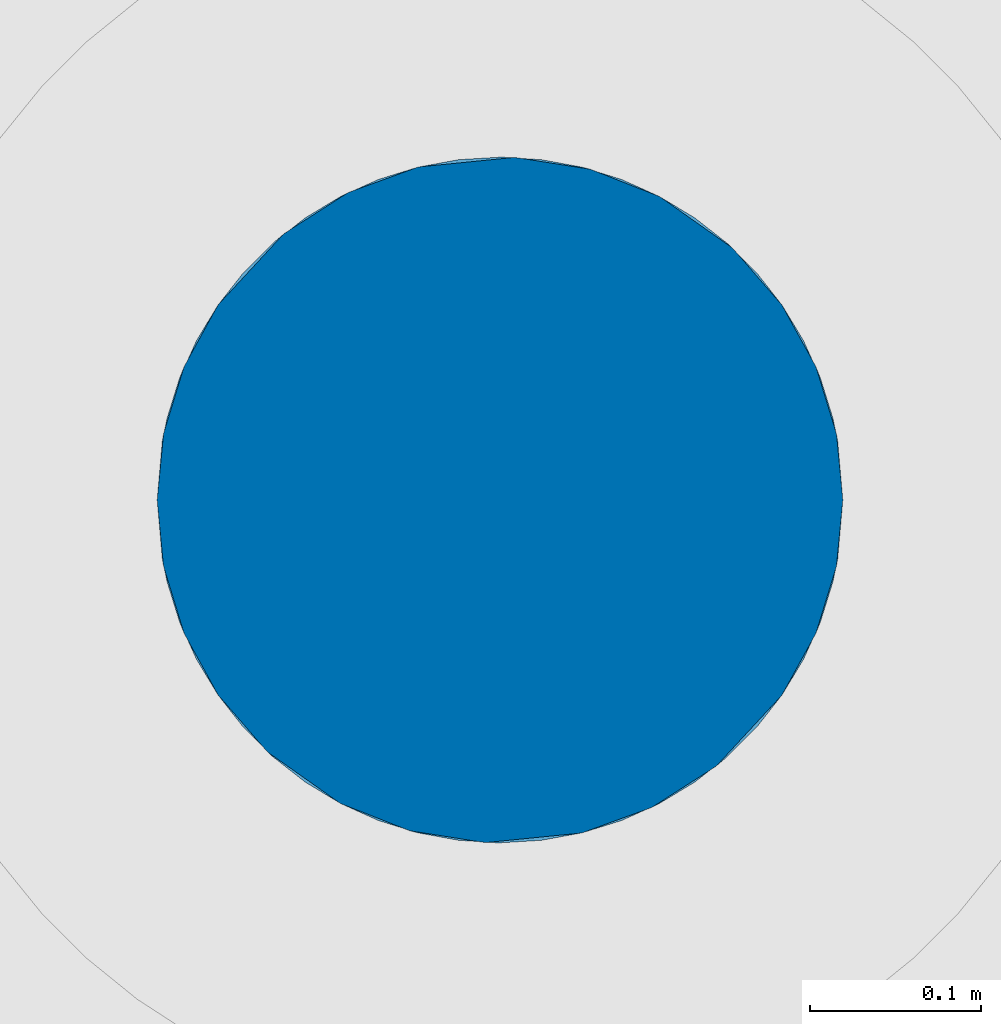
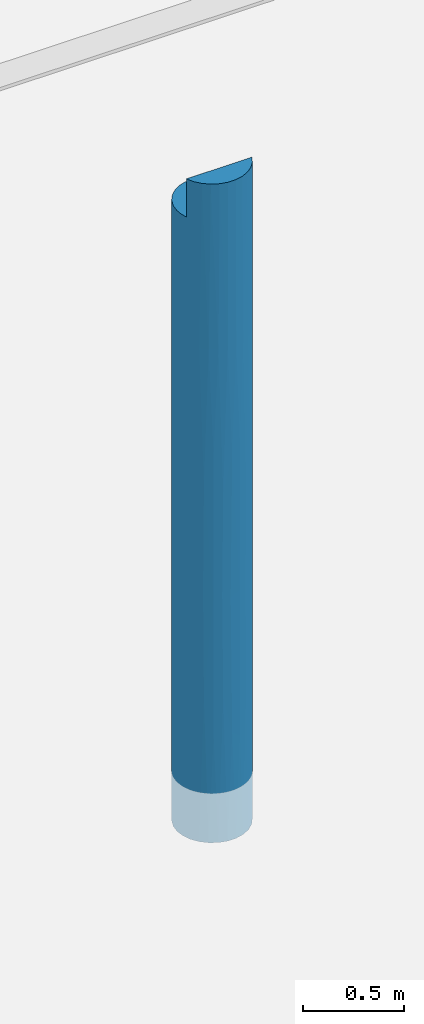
# One storey, part 12 of 29: 1 column.
"""IFC2X3 building model written with IfcOpenShell, lengths in centimetres."""

from ifc_helpers import new_model, entity, si_unit, converted_unit, derived_unit, direction, frame, origin, place, context, subcontext, project, spatial, faceted_brep, source, transform, mapped, material, type_object, type_shapes, element, save


model = new_model("IFC2X3")

# Units and contexts
model_context = context("Model", 3, precision=0.001, world=origin(), true_north=direction((6.12303176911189e-17, 1.0)))
body_context = subcontext(model_context, "Body", "Model", "MODEL_VIEW")
ifc_project = project(units=[si_unit("LENGTHUNIT", "METRE", prefix="CENTI"), si_unit("AREAUNIT", "SQUARE_METRE"), si_unit("VOLUMEUNIT", "CUBIC_METRE"), converted_unit("PLANEANGLEUNIT", "DEGREE", entity("IfcRatioMeasure", 0.0174532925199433), si_unit("PLANEANGLEUNIT", "RADIAN"), dimensions=[0, 0, 0, 0, 0, 0, 0]), si_unit("MASSUNIT", "GRAM", prefix="KILO"), derived_unit("MASSDENSITYUNIT", [(si_unit("MASSUNIT", "GRAM", prefix="KILO"), 1), (si_unit("LENGTHUNIT", "METRE"), -3)]), si_unit("TIMEUNIT", "SECOND"), si_unit("FREQUENCYUNIT", "HERTZ"), si_unit("THERMODYNAMICTEMPERATUREUNIT", "DEGREE_CELSIUS"), derived_unit("THERMALTRANSMITTANCEUNIT", [(si_unit("MASSUNIT", "GRAM", prefix="KILO"), 1), (si_unit("THERMODYNAMICTEMPERATUREUNIT", "KELVIN"), -1), (si_unit("TIMEUNIT", "SECOND"), -3)]), derived_unit("VOLUMETRICFLOWRATEUNIT", [(si_unit("LENGTHUNIT", "METRE"), 3), (si_unit("TIMEUNIT", "SECOND"), -1)]), si_unit("ELECTRICCURRENTUNIT", "AMPERE"), si_unit("ELECTRICVOLTAGEUNIT", "VOLT"), si_unit("POWERUNIT", "WATT"), si_unit("FORCEUNIT", "NEWTON"), si_unit("ILLUMINANCEUNIT", "LUX"), si_unit("LUMINOUSFLUXUNIT", "LUMEN"), si_unit("LUMINOUSINTENSITYUNIT", "CANDELA"), derived_unit("USERDEFINED", [(si_unit("MASSUNIT", "GRAM", prefix="KILO"), -1), (si_unit("LENGTHUNIT", "METRE"), -2), (si_unit("TIMEUNIT", "SECOND"), 3), (si_unit("LUMINOUSFLUXUNIT", "LUMEN"), 1)]), derived_unit("LINEARVELOCITYUNIT", [(si_unit("LENGTHUNIT", "METRE"), 1), (si_unit("TIMEUNIT", "SECOND"), -1)]), si_unit("PRESSUREUNIT", "PASCAL"), derived_unit("USERDEFINED", [(si_unit("LENGTHUNIT", "METRE"), -2), (si_unit("MASSUNIT", "GRAM", prefix="KILO"), 1), (si_unit("TIMEUNIT", "SECOND"), -2)])], contexts=[model_context])

# Site, building, storey
site_placement = place(None, origin())
site = spatial("IfcSite", under=ifc_project, at=site_placement, Name="Default", CompositionType="ELEMENT")
building_placement = place(site_placement, origin())
building = spatial("IfcBuilding", under=site, at=building_placement, Name="CAGE 03", CompositionType="ELEMENT")
storey_placement = place(building_placement, frame((0.0, 0.0, -26.0)))
storey = spatial("IfcBuildingStorey", under=building, at=storey_placement, Name="+3.74", CompositionType="ELEMENT", Elevation=-26.0000000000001)

# Column
ifc_material = material(Name="Béton, C25/30")
column_type = type_object("IfcColumnType", Name="Ø40", PredefinedType="COLUMN", material=ifc_material)
shared_shape = source(origin(), body_context, "Body", "Brep", [
    faceted_brep([(22.3604747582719, 0.15952722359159, 398.0), (26.6562085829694, 1.1226336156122, 398.0), (30.6371824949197, 3.00224649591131, 398.0), (34.1105335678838, 5.70733804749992, 398.0), (36.9079646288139, 9.10691303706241, 398.0), (38.8945212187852, 13.0380540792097, 398.0), (1.42453322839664, 13.0380540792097, 398.0), (3.41040035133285, 9.1079694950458, 398.0), (6.20776916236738, 5.70806988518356, 398.0), (9.68120958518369, 3.00265389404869, 398.0), (13.6622819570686, 1.12282730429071, 398.0), (17.9580773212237, 0.159582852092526, 398.0), (13.0674294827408, 38.7383789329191, 298.0), (17.7487936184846, 39.8922315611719, 298.0), (22.5702608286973, 39.8922315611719, 298.0), (27.251624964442, 38.7383789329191, 298.0), (31.5208221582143, 36.4977313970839, 298.0), (35.129742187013, 33.3005072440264, 298.0), (37.8686477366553, 29.3325175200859, 298.0), (39.5783635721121, 24.8243673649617, 298.0), (40.1595272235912, 20.0380540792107, 298.0), (39.5783635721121, 15.2517407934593, 298.0), (37.8686477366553, 10.7435906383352, 298.0), (35.129742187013, 6.77560091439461, 298.0), (31.5208221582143, 3.57837676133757, 298.0), (27.251624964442, 1.33772922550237, 298.0), (22.5702608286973, 0.183876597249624, 298.0), (17.7487936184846, 0.183876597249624, 298.0), (13.0674294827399, 1.33772922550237, 298.0), (8.79823228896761, 3.57837676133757, 298.0), (5.18931226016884, 6.77560091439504, 298.0), (2.45040671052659, 10.7435906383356, 298.0), (0.740690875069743, 15.2517407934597, 298.0), (0.15952722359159, 20.0380540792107, 298.0), (0.740690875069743, 24.8243673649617, 298.0), (2.45040671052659, 29.3325175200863, 298.0), (5.18931226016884, 33.3005072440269, 298.0), (8.79823228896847, 36.4977313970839, 298.0), (0.478319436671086, 16.4813617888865, 375.0), (0.15952722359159, 20.0380540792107, 375.0), (1.42453322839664, 13.0380540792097, 375.0), (38.8945212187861, 13.0380540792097, 375.0), (39.8407350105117, 16.4813617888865, 375.0), (40.1595272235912, 20.0380540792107, 375.0), (39.5783635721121, 24.8243673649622, 375.0), (37.8686477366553, 29.3325175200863, 375.0), (27.251624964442, 38.7383789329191, 375.0), (31.5208221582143, 36.4977313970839, 375.0), (35.129742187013, 33.3005072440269, 375.0), (22.5702608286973, 39.8922315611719, 375.0), (17.7487936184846, 39.8922315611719, 375.0), (13.0674294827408, 38.7383789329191, 375.0), (8.79823228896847, 36.4977313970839, 375.0), (0.740690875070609, 24.8243673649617, 375.0), (2.45040671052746, 29.3325175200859, 375.0), (5.18931226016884, 33.3005072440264, 375.0)], [[[0, 1, 2, 3, 4, 5, 6, 7, 8, 9, 10, 11]], [[12, 13, 14, 15, 16, 17, 18, 19, 20, 21, 22, 23, 24, 25, 26, 27, 28, 29, 30, 31, 32, 33, 34, 35, 36, 37]], [[38, 33, 32]], [[38, 39, 33]], [[40, 32, 31]], [[29, 28, 9]], [[8, 30, 29]], [[7, 31, 30]], [[10, 28, 27]], [[40, 38, 32]], [[7, 6, 40]], [[31, 7, 40]], [[30, 8, 7]], [[29, 9, 8]], [[10, 9, 28]], [[27, 11, 10]], [[27, 0, 11]], [[24, 2, 25]], [[25, 1, 26]], [[3, 24, 23]], [[41, 21, 42]], [[23, 22, 4]], [[41, 22, 21]], [[21, 20, 42]], [[4, 22, 41]], [[1, 25, 2]], [[3, 2, 24]], [[1, 0, 26]], [[43, 42, 20]], [[4, 41, 5]], [[4, 3, 23]], [[26, 0, 27]], [[44, 19, 18, 45]], [[20, 19, 44, 43]], [[16, 15, 46, 47]], [[48, 17, 16, 47]], [[45, 18, 17, 48]], [[46, 15, 14, 49]], [[14, 13, 50, 49]], [[50, 13, 12, 51]], [[37, 52, 51, 12]], [[35, 34, 53, 54]], [[55, 36, 35, 54]], [[52, 37, 36, 55]], [[53, 34, 33, 39]], [[47, 46, 49, 50, 51, 52, 55, 54, 53, 39, 38, 40, 41, 42, 43, 44, 45, 48]], [[5, 41, 40, 6]]]),
    faceted_brep([(22.5702608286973, 39.8922315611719, 0.0), (27.251624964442, 38.7383789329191, 0.0), (31.5208221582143, 36.4977313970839, 0.0), (35.129742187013, 33.3005072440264, 0.0), (37.8686477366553, 29.3325175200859, 0.0), (39.5783635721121, 24.8243673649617, 0.0), (40.1595272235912, 20.0380540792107, 0.0), (39.5783635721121, 15.2517407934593, 0.0), (37.8686477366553, 10.7435906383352, 0.0), (35.129742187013, 6.77560091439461, 0.0), (31.5208221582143, 3.57837676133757, 0.0), (27.251624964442, 1.33772922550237, 0.0), (22.5702608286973, 0.183876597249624, 0.0), (17.7487936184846, 0.183876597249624, 0.0), (13.0674294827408, 1.33772922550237, 0.0), (8.79823228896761, 3.57837676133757, 0.0), (5.18931226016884, 6.77560091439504, 0.0), (2.45040671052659, 10.7435906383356, 0.0), (0.740690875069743, 15.2517407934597, 0.0), (0.15952722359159, 20.0380540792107, 0.0), (0.740690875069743, 24.8243673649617, 0.0), (2.45040671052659, 29.3325175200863, 0.0), (5.18931226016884, 33.3005072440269, 0.0), (8.79823228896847, 36.4977313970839, 0.0), (13.0674294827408, 38.7383789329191, 0.0), (17.7487936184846, 39.8922315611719, 0.0), (27.251624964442, 1.33772922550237, 298.0), (31.5208221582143, 3.57837676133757, 298.0), (35.129742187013, 6.77560091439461, 298.0), (37.8686477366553, 10.7435906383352, 298.0), (39.5783635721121, 15.2517407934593, 298.0), (40.1595272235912, 20.0380540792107, 298.0), (39.5783635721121, 24.8243673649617, 298.0), (37.8686477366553, 29.3325175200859, 298.0), (35.129742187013, 33.3005072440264, 298.0), (31.5208221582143, 36.4977313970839, 298.0), (27.251624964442, 38.7383789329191, 298.0), (22.5702608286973, 39.8922315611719, 298.0), (17.7487936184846, 39.8922315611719, 298.0), (13.0674294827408, 38.7383789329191, 298.0), (8.79823228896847, 36.4977313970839, 298.0), (5.18931226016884, 33.3005072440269, 298.0), (2.45040671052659, 29.3325175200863, 298.0), (0.740690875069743, 24.8243673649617, 298.0), (0.15952722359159, 20.0380540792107, 298.0), (0.740690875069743, 15.2517407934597, 298.0), (2.45040671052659, 10.7435906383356, 298.0), (5.18931226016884, 6.77560091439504, 298.0), (8.79823228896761, 3.57837676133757, 298.0), (13.0674294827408, 1.33772922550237, 298.0), (17.7487936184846, 0.183876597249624, 298.0), (22.5702608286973, 0.183876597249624, 298.0), (29.4539906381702, 37.7471746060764, 234.492004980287), (15.3732139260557, 39.4568904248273, 237.069426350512), (39.8586298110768, 23.4942596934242, 60.2992552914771), (38.8598520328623, 27.1301519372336, 92.1783624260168), (29.4539906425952, 37.7471746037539, 64.7303650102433), (33.4219803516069, 35.0082690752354, 86.909719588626), (0.15952722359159, 20.0380540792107, 49.3811051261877), (36.6192045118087, 31.3993490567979, 234.492005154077), (38.8598520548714, 27.1301518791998, 216.184382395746), (39.7898281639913, 23.8657537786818, 148.140478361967), (38.5835538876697, 27.8197789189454, 151.462832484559), (0.15952722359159, 20.0380540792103, 100.479587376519), (0.539464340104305, 23.9178907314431, 149.859525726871), (0.457816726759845, 23.4793624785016, 74.9297628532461), (1.73651405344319, 27.8221780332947, 152.588649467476), (1.45920236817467, 27.1301518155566, 86.9097194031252), (24.9458404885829, 39.4568904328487, 86.9097193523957), (20.1595272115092, 40.038054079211, 64.7303650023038), (3.69984990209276, 31.3993490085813, 237.069426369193), (6.89707405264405, 35.0082690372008, 233.269635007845), (40.1595272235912, 20.0380540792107, 248.619841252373), (10.865063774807, 37.7471745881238, 86.9097194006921), (33.4219803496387, 35.0082690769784, 216.184382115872), (36.6192044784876, 31.3993491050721, 161.451403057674), (36.6192045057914, 31.399349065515, 64.7303651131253), (0.15952722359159, 20.0380540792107, 197.520510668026), (0.15952722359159, 20.0380540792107, 199.23979368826), (29.4539906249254, 37.7471746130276, 149.0), (0.441806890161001, 23.3864126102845, 238.83127802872), (1.45920236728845, 27.1301518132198, 211.090280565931), (15.3732139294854, 39.4568904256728, 60.9305736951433), (15.3732139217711, 39.4568904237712, 149.0), (11.3350094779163, 37.9859755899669, 149.0), (6.89707405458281, 35.0082690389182, 64.7303649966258), (20.1595272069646, 40.038054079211, 233.269635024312), (3.69984990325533, 31.3993490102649, 60.930573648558), (3.69984990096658, 31.3993490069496, 149.0), (21.0345162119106, 40.0189047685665, 146.717454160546), (25.4559542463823, 39.3240039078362, 149.0), (24.9458404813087, 39.4568904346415, 211.09028058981), (40.1595272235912, 20.0380540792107, 98.7603174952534), (10.8650637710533, 37.7471745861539, 211.09028055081), (33.7312290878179, 34.7284900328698, 151.547050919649), (7.5647110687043, 35.5741606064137, 146.717453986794), (39.8666164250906, 23.4484257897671, 223.070239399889), (40.1595272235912, 20.0380540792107, 197.520634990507), (40.1595272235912, 20.0380540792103, 100.479367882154), (40.159527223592, 20.0380540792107, 49.3801580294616), (0.15952722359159, 20.0380540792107, 98.7602553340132), (0.159527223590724, 20.0380540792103, 248.619032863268), (40.1595272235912, 20.0380540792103, 199.239683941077), (36.6192045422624, 8.67675914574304, 237.069426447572), (33.4219803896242, 5.06783911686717, 233.269635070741), (39.8772475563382, 16.6896955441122, 238.831278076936), (38.8598520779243, 12.9459563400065, 211.090280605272), (38.5825403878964, 12.2539301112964, 152.588649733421), (38.8598520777, 12.9459563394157, 86.9097193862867), (39.7795901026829, 16.1582174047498, 149.859525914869), (6.89707406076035, 5.06783911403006, 86.9097194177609), (10.8650637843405, 2.32893356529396, 64.7303649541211), (24.9458405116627, 0.619217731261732, 149.0), (29.4539906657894, 2.3289335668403, 86.909719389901), (28.9840449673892, 2.09013256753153, 149.0), (6.89707406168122, 5.06783911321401, 216.184381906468), (32.7543433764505, 4.50194755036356, 146.717453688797), (33.4219803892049, 5.0678391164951, 64.7303649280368), (39.8612377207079, 16.5967456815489, 74.9297629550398), (20.1595272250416, 0.0380540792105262, 64.7303649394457), (15.3732139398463, 0.619217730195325, 86.9097193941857), (1.45920237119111, 12.9459563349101, 92.1783625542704), (10.8650637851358, 2.32893356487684, 234.492004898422), (24.9458405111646, 0.619217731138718, 237.069426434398), (3.6998499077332, 8.67675914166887, 234.492004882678), (3.69984990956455, 8.67675913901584, 161.451402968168), (3.69984990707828, 8.67675914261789, 64.7303649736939), (1.45920237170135, 12.9459563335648, 216.184381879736), (0.529226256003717, 16.210354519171, 148.140474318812), (1.7355004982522, 12.2563293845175, 151.462831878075), (10.8650637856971, 2.32893356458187, 149.0), (0.460424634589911, 16.5818484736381, 60.2992559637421), (24.9458405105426, 0.619217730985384, 60.9305735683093), (19.284538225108, 0.057203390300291, 146.717453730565), (36.6192045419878, 8.67675914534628, 60.9305735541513), (36.6192045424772, 8.67675914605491, 149.0), (20.159527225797, 0.0380540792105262, 233.269635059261), (14.8631001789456, 0.752104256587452, 149.0), (15.3732139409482, 0.619217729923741, 211.090280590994), (29.453990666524, 2.32893356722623, 211.090280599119), (6.58782530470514, 5.34761817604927, 151.54705066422), (0.452438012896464, 16.6276824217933, 223.070237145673)], [[[0, 1, 2, 3, 4, 5, 6, 7, 8, 9, 10, 11, 12, 13, 14, 15, 16, 17, 18, 19, 20, 21, 22, 23, 24, 25]], [[26, 27, 28, 29, 30, 31, 32, 33, 34, 35, 36, 37, 38, 39, 40, 41, 42, 43, 44, 45, 46, 47, 48, 49, 50, 51]], [[36, 35, 52]], [[39, 38, 53]], [[54, 6, 5]], [[55, 5, 4]], [[2, 56, 57]], [[20, 19, 58]], [[34, 33, 59]], [[60, 61, 62]], [[2, 1, 56]], [[63, 64, 65]], [[66, 67, 64]], [[68, 0, 69]], [[2, 57, 3]], [[68, 1, 0]], [[70, 41, 71]], [[32, 31, 72]], [[73, 24, 23]], [[74, 35, 34]], [[33, 32, 60]], [[59, 33, 60]], [[74, 59, 75]], [[75, 76, 57]], [[64, 63, 77, 78]], [[74, 52, 35]], [[42, 41, 70]], [[57, 56, 79]], [[79, 52, 74]], [[80, 43, 81]], [[69, 25, 82]], [[83, 73, 84]], [[40, 71, 41]], [[73, 23, 85]], [[67, 65, 64]], [[37, 86, 38]], [[87, 88, 85]], [[88, 70, 71]], [[89, 68, 69]], [[22, 87, 85]], [[79, 68, 90]], [[85, 23, 22]], [[81, 43, 42]], [[86, 37, 91]], [[53, 38, 86]], [[61, 92, 54]], [[57, 76, 3]], [[54, 5, 55]], [[69, 82, 83]], [[83, 53, 86]], [[76, 75, 55]], [[93, 40, 39]], [[71, 40, 93]], [[94, 79, 74]], [[21, 20, 67]], [[44, 43, 80]], [[69, 0, 25]], [[91, 37, 36]], [[95, 73, 85]], [[3, 76, 4]], [[94, 74, 75]], [[52, 79, 91]], [[79, 56, 68]], [[32, 72, 96]], [[61, 97, 98, 92]], [[1, 68, 56]], [[55, 4, 76]], [[25, 24, 82]], [[89, 69, 83]], [[93, 53, 83]], [[90, 89, 91]], [[91, 89, 86]], [[83, 86, 89]], [[22, 21, 87]], [[95, 85, 88]], [[81, 70, 88]], [[88, 87, 67]], [[84, 95, 93]], [[93, 95, 71]], [[88, 71, 95]], [[91, 36, 52]], [[75, 59, 60]], [[74, 34, 59]], [[24, 73, 82]], [[83, 82, 73]], [[93, 39, 53]], [[21, 67, 87]], [[81, 42, 70]], [[62, 61, 55]], [[61, 60, 96]], [[55, 75, 62]], [[60, 62, 75]], [[61, 54, 55]], [[54, 92, 99, 6]], [[89, 90, 68]], [[91, 79, 90]], [[95, 84, 73]], [[93, 83, 84]], [[65, 58, 100, 63]], [[20, 58, 65]], [[20, 65, 67]], [[80, 64, 78]], [[64, 81, 66]], [[64, 80, 81]], [[80, 78, 101, 44]], [[75, 57, 94]], [[79, 94, 57]], [[96, 72, 102, 97]], [[61, 96, 97]], [[32, 96, 60]], [[81, 88, 66]], [[67, 66, 88]], [[103, 28, 104]], [[105, 30, 106]], [[107, 108, 109]], [[16, 15, 110]], [[15, 111, 110]], [[112, 113, 114]], [[111, 15, 14]], [[7, 6, 99]], [[47, 115, 48]], [[116, 113, 117]], [[98, 109, 118]], [[13, 119, 120]], [[121, 18, 17]], [[120, 14, 13]], [[49, 48, 122]], [[45, 44, 101]], [[26, 51, 123]], [[115, 124, 125]], [[125, 126, 110]], [[127, 128, 129]], [[124, 47, 46]], [[127, 124, 46]], [[109, 98, 97, 102]], [[122, 48, 115]], [[113, 11, 10]], [[110, 111, 130]], [[130, 122, 115]], [[131, 19, 18]], [[119, 12, 132]], [[117, 10, 9]], [[133, 120, 119]], [[113, 10, 117]], [[108, 118, 109]], [[126, 125, 121]], [[125, 124, 127]], [[134, 135, 117]], [[135, 103, 104]], [[50, 136, 51]], [[9, 134, 117]], [[119, 13, 12]], [[130, 120, 137]], [[106, 30, 29]], [[136, 50, 138]], [[123, 51, 136]], [[16, 126, 17]], [[46, 45, 127]], [[128, 100, 131]], [[119, 132, 112]], [[112, 123, 136]], [[131, 18, 121]], [[139, 27, 26]], [[104, 27, 139]], [[31, 30, 105]], [[8, 7, 108]], [[110, 126, 16]], [[140, 130, 115]], [[138, 50, 49]], [[27, 104, 28]], [[29, 28, 103]], [[140, 115, 125]], [[122, 130, 138]], [[130, 111, 120]], [[45, 101, 141]], [[128, 77, 63, 100]], [[14, 120, 111]], [[121, 17, 126]], [[12, 11, 132]], [[133, 119, 112]], [[139, 123, 112]], [[112, 132, 113]], [[137, 133, 138]], [[138, 133, 136]], [[112, 136, 133]], [[9, 8, 134]], [[116, 117, 135]], [[106, 103, 135]], [[135, 134, 108]], [[114, 116, 139]], [[139, 116, 104]], [[135, 104, 116]], [[138, 49, 122]], [[115, 47, 124]], [[11, 113, 132]], [[139, 26, 123]], [[8, 108, 134]], [[106, 29, 103]], [[129, 128, 121]], [[128, 127, 141]], [[121, 125, 129]], [[127, 129, 125]], [[128, 131, 121]], [[131, 100, 58, 19]], [[133, 137, 120]], [[138, 130, 137]], [[116, 114, 113]], [[139, 112, 114]], [[118, 99, 92, 98]], [[7, 99, 118]], [[7, 118, 108]], [[105, 109, 102]], [[109, 106, 107]], [[109, 105, 106]], [[105, 102, 72, 31]], [[125, 110, 140]], [[130, 140, 110]], [[141, 101, 78, 77]], [[128, 141, 77]], [[45, 141, 127]], [[106, 135, 107]], [[108, 107, 135]]]),
])
type_shapes(column_type, [shared_shape])
column_placement = place(storey_placement, frame((7741.20629291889, 3801.62261199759, -32.0)))
element("IfcColumn", 1, at=column_placement, inside=storey, type_object=column_type, material=ifc_material, Name="BBGO-Poteau circ:Ø40", ObjectType="Ø40", context=body_context, shape_type="MappedRepresentation", body=[
    mapped(shared_shape, transform((0.0, 0.0, 0.0), scale=1.0)),
])

save(model, "model.ifc")
